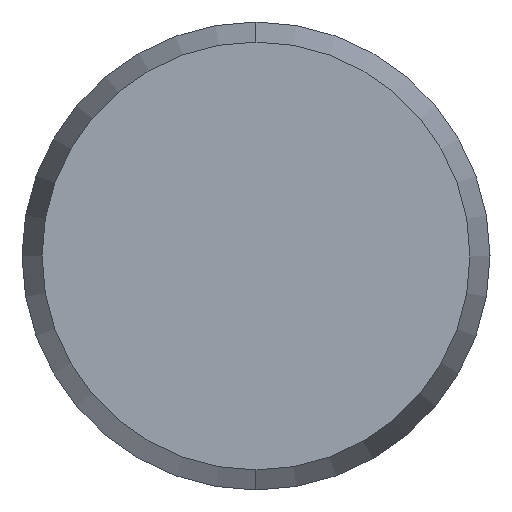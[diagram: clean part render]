
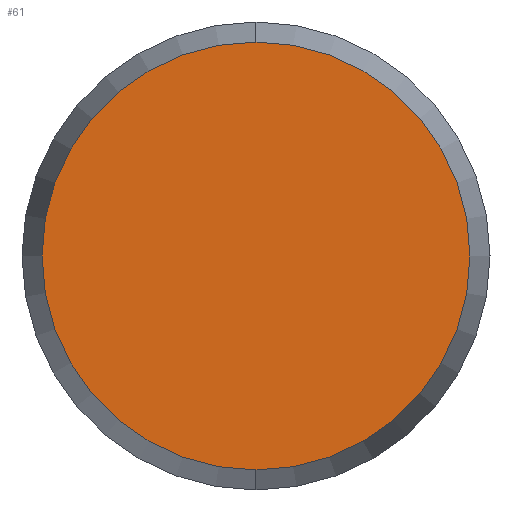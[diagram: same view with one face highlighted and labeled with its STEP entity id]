
A CAD part, left-side view. The second image highlights one B-rep face of the part: STEP entity #61.
In plain terms, the highlighted planar face has unit normal (-1, 0, 0).
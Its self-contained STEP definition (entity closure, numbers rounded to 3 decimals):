
#22 = EDGE_LOOP ( 'NONE', ( #23, #24 ) ) ;
#23 = ORIENTED_EDGE ( 'NONE', *, *, #32, .F. ) ;
#24 = ORIENTED_EDGE ( 'NONE', *, *, #64, .F. ) ;
#32 = EDGE_CURVE ( 'NONE', #44, #33, #138, .T. ) ;
#33 = VERTEX_POINT ( 'NONE', #133 ) ;
#44 = VERTEX_POINT ( 'NONE', #119 ) ;
#61 = ADVANCED_FACE ( 'NONE', ( #96 ), #95, .F. ) ;
#64 = EDGE_CURVE ( 'NONE', #33, #44, #89, .T. ) ;
#85 = DIRECTION ( 'NONE',  ( 0., 0., -1. ) ) ;
#86 = DIRECTION ( 'NONE',  ( 1., 0., 0. ) ) ;
#87 = CARTESIAN_POINT ( 'NONE',  ( -18., 0., 0. ) ) ;
#88 = AXIS2_PLACEMENT_3D ( 'NONE', #87, #86, #85 ) ;
#89 = CIRCLE ( 'NONE', #88, 2.286 ) ;
#91 = DIRECTION ( 'NONE',  ( 0., 0., -1. ) ) ;
#92 = DIRECTION ( 'NONE',  ( 1., 0., 0. ) ) ;
#93 = CARTESIAN_POINT ( 'NONE',  ( -18., 0., 0. ) ) ;
#94 = AXIS2_PLACEMENT_3D ( 'NONE', #93, #92, #91 ) ;
#95 = PLANE ( 'NONE',  #94 ) ;
#96 = FACE_OUTER_BOUND ( 'NONE', #22, .T. ) ;
#119 = CARTESIAN_POINT ( 'NONE',  ( -18., 0., 2.286 ) ) ;
#133 = CARTESIAN_POINT ( 'NONE',  ( -18., 0., -2.286 ) ) ;
#134 = DIRECTION ( 'NONE',  ( 0., 0., -1. ) ) ;
#135 = DIRECTION ( 'NONE',  ( 1., 0., 0. ) ) ;
#136 = CARTESIAN_POINT ( 'NONE',  ( -18., 0., 0. ) ) ;
#137 = AXIS2_PLACEMENT_3D ( 'NONE', #136, #135, #134 ) ;
#138 = CIRCLE ( 'NONE', #137, 2.286 ) ;
